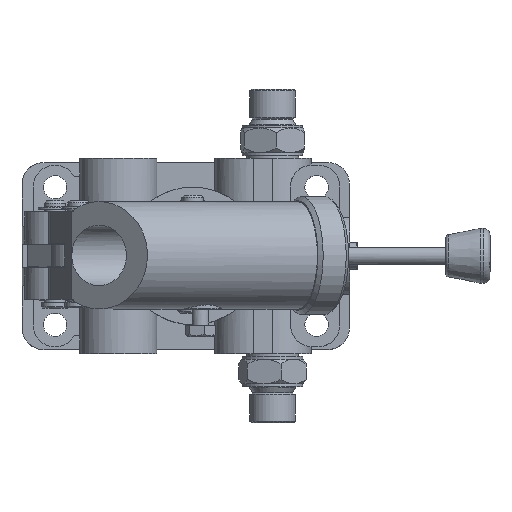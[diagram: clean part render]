
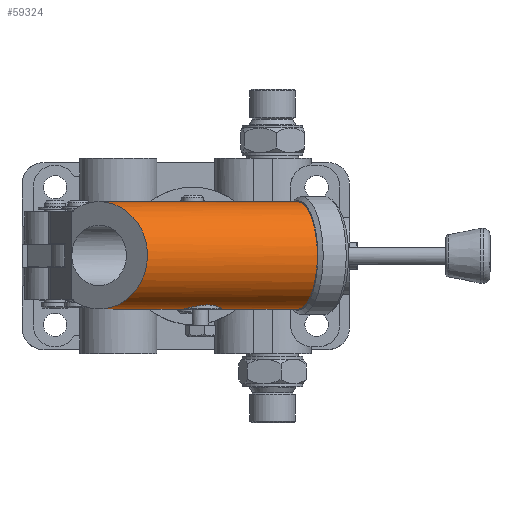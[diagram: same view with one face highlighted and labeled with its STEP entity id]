
A CAD part, top view. The second image highlights one B-rep face of the part: STEP entity #59324.
In plain terms, the highlighted cylindrical face has radius 19.48 mm (diameter 38.961 mm), a partial arc.
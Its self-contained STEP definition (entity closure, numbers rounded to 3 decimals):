
#51=ELLIPSE('',#62649,20.731,19.481);
#52=ELLIPSE('',#62654,20.731,19.481);
#53=ELLIPSE('',#62657,20.731,19.481);
#54=ELLIPSE('',#62660,22.494,19.481);
#55=ELLIPSE('',#62663,20.731,19.481);
#4893=LINE('',#94189,#9711);
#4894=LINE('',#94190,#9712);
#4898=LINE('',#94200,#9716);
#4899=LINE('',#94202,#9717);
#4901=LINE('',#94208,#9719);
#4902=LINE('',#94212,#9720);
#4905=LINE('',#94220,#9723);
#9711=VECTOR('',#74075,1000.);
#9712=VECTOR('',#74076,1000.);
#9716=VECTOR('',#74086,1000.);
#9717=VECTOR('',#74087,1000.);
#9719=VECTOR('',#74095,1000.);
#9720=VECTOR('',#74102,1000.);
#9723=VECTOR('',#74111,1000.);
#9947=B_SPLINE_CURVE_WITH_KNOTS('',3,(#94222,#94223,#94224,#94225,#94226,
#94227),.UNSPECIFIED.,.F.,.F.,(4,1,1,4),(0.039,0.043,
0.045,0.047),.UNSPECIFIED.);
#9948=B_SPLINE_CURVE_WITH_KNOTS('',3,(#94229,#94230,#94231,#94232,#94233),
 .UNSPECIFIED.,.F.,.F.,(4,1,4),(0.,0.004,0.009),
 .UNSPECIFIED.);
#9949=B_SPLINE_CURVE_WITH_KNOTS('',3,(#94237,#94238,#94239,#94240,#94241),
 .UNSPECIFIED.,.F.,.F.,(4,1,4),(0.032,0.035,0.039),
 .UNSPECIFIED.);
#9950=B_SPLINE_CURVE_WITH_KNOTS('',3,(#94243,#94244,#94245,#94246,#94247,
#94248,#94249),.UNSPECIFIED.,.F.,.F.,(4,1,1,1,4),(0.015,0.019,
0.024,0.028,0.032),.UNSPECIFIED.);
#9951=B_SPLINE_CURVE_WITH_KNOTS('',3,(#94251,#94252,#94253,#94254,#94255),
 .UNSPECIFIED.,.F.,.F.,(4,1,4),(0.009,0.012,
0.015),.UNSPECIFIED.);
#12118=CYLINDRICAL_SURFACE('',#62667,19.481);
#24223=ORIENTED_EDGE('',*,*,#30318,.F.);
#24224=ORIENTED_EDGE('',*,*,#30317,.T.);
#24225=ORIENTED_EDGE('',*,*,#30314,.T.);
#24226=ORIENTED_EDGE('',*,*,#30313,.T.);
#24227=ORIENTED_EDGE('',*,*,#30312,.F.);
#24228=ORIENTED_EDGE('',*,*,#30310,.T.);
#24229=ORIENTED_EDGE('',*,*,#30309,.F.);
#24230=ORIENTED_EDGE('',*,*,#30319,.F.);
#24231=ORIENTED_EDGE('',*,*,#30322,.F.);
#24232=ORIENTED_EDGE('',*,*,#30323,.F.);
#24233=ORIENTED_EDGE('',*,*,#30324,.F.);
#24234=ORIENTED_EDGE('',*,*,#30320,.F.);
#24235=ORIENTED_EDGE('',*,*,#30308,.F.);
#24236=ORIENTED_EDGE('',*,*,#30306,.F.);
#24237=ORIENTED_EDGE('',*,*,#30303,.T.);
#24238=ORIENTED_EDGE('',*,*,#30300,.T.);
#24239=ORIENTED_EDGE('',*,*,#30302,.T.);
#24240=ORIENTED_EDGE('',*,*,#30298,.F.);
#30298=EDGE_CURVE('',#34336,#34337,#51,.T.);
#30300=EDGE_CURVE('',#34338,#34339,#35346,.T.);
#30302=EDGE_CURVE('',#34339,#34337,#4893,.F.);
#30303=EDGE_CURVE('',#34340,#34338,#4894,.T.);
#30306=EDGE_CURVE('',#34340,#34341,#52,.T.);
#30308=EDGE_CURVE('',#34341,#34343,#4898,.F.);
#30309=EDGE_CURVE('',#34343,#34342,#4899,.F.);
#30310=EDGE_CURVE('',#34344,#34342,#53,.T.);
#30312=EDGE_CURVE('',#34344,#34317,#4901,.F.);
#30313=EDGE_CURVE('',#34318,#34317,#54,.T.);
#30314=EDGE_CURVE('',#34345,#34318,#4902,.F.);
#30317=EDGE_CURVE('',#34346,#34345,#55,.T.);
#30318=EDGE_CURVE('',#34346,#34336,#4905,.T.);
#30319=EDGE_CURVE('',#34347,#34343,#9947,.T.);
#30320=EDGE_CURVE('',#34343,#34348,#9948,.T.);
#30322=EDGE_CURVE('',#34349,#34347,#9949,.T.);
#30323=EDGE_CURVE('',#34350,#34349,#9950,.T.);
#30324=EDGE_CURVE('',#34348,#34350,#9951,.T.);
#34317=VERTEX_POINT('',#94120);
#34318=VERTEX_POINT('',#94122);
#34336=VERTEX_POINT('',#94179);
#34337=VERTEX_POINT('',#94181);
#34338=VERTEX_POINT('',#94185);
#34339=VERTEX_POINT('',#94186);
#34340=VERTEX_POINT('',#94191);
#34341=VERTEX_POINT('',#94195);
#34342=VERTEX_POINT('',#94199);
#34343=VERTEX_POINT('',#94201);
#34344=VERTEX_POINT('',#94205);
#34345=VERTEX_POINT('',#94213);
#34346=VERTEX_POINT('',#94217);
#34347=VERTEX_POINT('',#94228);
#34348=VERTEX_POINT('',#94234);
#34349=VERTEX_POINT('',#94242);
#34350=VERTEX_POINT('',#94250);
#35346=CIRCLE('',#62651,19.481);
#38390=EDGE_LOOP('',(#24223,#24224,#24225,#24226,#24227,#24228,#24229,#24230,
#24231,#24232,#24233,#24234,#24235,#24236,#24237,#24238,#24239,#24240));
#41451=FACE_BOUND('',#38390,.T.);
#59324=ADVANCED_FACE('',(#41451),#12118,.T.);
#62649=AXIS2_PLACEMENT_3D('',#94180,#74065,#74066);
#62651=AXIS2_PLACEMENT_3D('',#94184,#74070,#74071);
#62654=AXIS2_PLACEMENT_3D('',#94196,#74081,#74082);
#62657=AXIS2_PLACEMENT_3D('',#94204,#74090,#74091);
#62660=AXIS2_PLACEMENT_3D('',#94210,#74098,#74099);
#62663=AXIS2_PLACEMENT_3D('',#94218,#74107,#74108);
#62667=AXIS2_PLACEMENT_3D('',#94236,#74116,#74117);
#74065=DIRECTION('',(-0.75,0.,0.661));
#74066=DIRECTION('',(0.661,0.,0.75));
#74070=DIRECTION('',(-0.931,0.,0.365));
#74071=DIRECTION('',(0.365,0.,0.931));
#74075=DIRECTION('',(0.931,0.,-0.365));
#74076=DIRECTION('',(0.931,0.,-0.365));
#74081=DIRECTION('',(-0.75,0.,0.661));
#74082=DIRECTION('',(0.661,0.,0.75));
#74086=DIRECTION('',(0.931,0.,-0.365));
#74087=DIRECTION('',(0.931,0.,-0.365));
#74090=DIRECTION('',(-1.,0.,0.024));
#74091=DIRECTION('',(-0.024,0.,-1.));
#74095=DIRECTION('',(0.931,0.,-0.365));
#74098=DIRECTION('',(0.624,0.,-0.781));
#74099=DIRECTION('',(0.781,0.,0.624));
#74102=DIRECTION('',(0.931,0.,-0.365));
#74107=DIRECTION('',(-1.,0.,0.024));
#74108=DIRECTION('',(-0.024,0.,-1.));
#74111=DIRECTION('',(0.931,0.,-0.365));
#74116=DIRECTION('',(0.931,0.,-0.365));
#74117=DIRECTION('',(-0.365,0.,-0.931));
#94120=CARTESIAN_POINT('',(-44.037,-15.984,138.434));
#94122=CARTESIAN_POINT('',(-44.037,15.984,138.434));
#94179=CARTESIAN_POINT('',(34.385,17.982,111.645));
#94180=CARTESIAN_POINT('',(39.656,0.,117.628));
#94181=CARTESIAN_POINT('',(27.006,7.492,103.269));
#94184=CARTESIAN_POINT('',(38.164,0.,118.212));
#94185=CARTESIAN_POINT('',(31.609,-7.493,101.467));
#94186=CARTESIAN_POINT('',(31.609,7.492,101.467));
#94189=CARTESIAN_POINT('',(-46.532,7.492,132.059));
#94190=CARTESIAN_POINT('',(-46.532,-7.493,132.059));
#94191=CARTESIAN_POINT('',(27.006,-7.493,103.269));
#94195=CARTESIAN_POINT('',(34.385,-17.982,111.645));
#94196=CARTESIAN_POINT('',(39.656,0.,117.628));
#94199=CARTESIAN_POINT('',(-13.295,-17.982,130.311));
#94200=CARTESIAN_POINT('',(-42.708,-17.982,141.826));
#94201=CARTESIAN_POINT('',(0.083,-17.982,125.074));
#94202=CARTESIAN_POINT('',(-42.708,-17.982,141.826));
#94204=CARTESIAN_POINT('',(-13.103,0.,138.282));
#94205=CARTESIAN_POINT('',(-13.388,-15.984,126.435));
#94208=CARTESIAN_POINT('',(-44.037,-15.984,138.434));
#94210=CARTESIAN_POINT('',(-33.99,0.,146.459));
#94212=CARTESIAN_POINT('',(-44.037,15.984,138.434));
#94213=CARTESIAN_POINT('',(-13.388,15.984,126.435));
#94217=CARTESIAN_POINT('',(-13.295,17.982,130.311));
#94218=CARTESIAN_POINT('',(-13.103,0.,138.282));
#94220=CARTESIAN_POINT('',(-42.708,17.982,141.826));
#94222=CARTESIAN_POINT('',(-4.667,-19.231,131.64));
#94223=CARTESIAN_POINT('',(-4.589,-19.021,130.215));
#94224=CARTESIAN_POINT('',(-3.853,-18.538,128.134));
#94225=CARTESIAN_POINT('',(-1.843,-18.071,126.052));
#94226=CARTESIAN_POINT('',(-0.596,-17.982,125.34));
#94227=CARTESIAN_POINT('',(0.083,-17.982,125.074));
#94228=CARTESIAN_POINT('',(-4.667,-19.231,131.64));
#94229=CARTESIAN_POINT('',(0.083,-17.982,125.074));
#94230=CARTESIAN_POINT('',(1.442,-17.982,124.542));
#94231=CARTESIAN_POINT('',(4.396,-18.372,124.306));
#94232=CARTESIAN_POINT('',(7.009,-19.022,125.682));
#94233=CARTESIAN_POINT('',(8.029,-19.231,126.67));
#94234=CARTESIAN_POINT('',(8.029,-19.231,126.67));
#94236=CARTESIAN_POINT('',(-39.977,0.,148.803));
#94237=CARTESIAN_POINT('',(-2.4,-19.231,137.431));
#94238=CARTESIAN_POINT('',(-3.167,-19.388,136.687));
#94239=CARTESIAN_POINT('',(-4.379,-19.574,134.871));
#94240=CARTESIAN_POINT('',(-4.725,-19.387,132.699));
#94241=CARTESIAN_POINT('',(-4.667,-19.231,131.64));
#94242=CARTESIAN_POINT('',(-2.4,-19.231,137.431));
#94243=CARTESIAN_POINT('',(10.296,-19.231,132.461));
#94244=CARTESIAN_POINT('',(10.217,-19.02,133.895));
#94245=CARTESIAN_POINT('',(9.246,-18.374,136.647));
#94246=CARTESIAN_POINT('',(5.711,-17.786,139.429));
#94247=CARTESIAN_POINT('',(1.213,-18.373,139.793));
#94248=CARTESIAN_POINT('',(-1.367,-19.019,138.432));
#94249=CARTESIAN_POINT('',(-2.4,-19.231,137.431));
#94250=CARTESIAN_POINT('',(10.296,-19.231,132.461));
#94251=CARTESIAN_POINT('',(8.029,-19.231,126.67));
#94252=CARTESIAN_POINT('',(8.786,-19.386,127.404));
#94253=CARTESIAN_POINT('',(10.009,-19.574,129.229));
#94254=CARTESIAN_POINT('',(10.354,-19.388,131.396));
#94255=CARTESIAN_POINT('',(10.296,-19.231,132.461));
